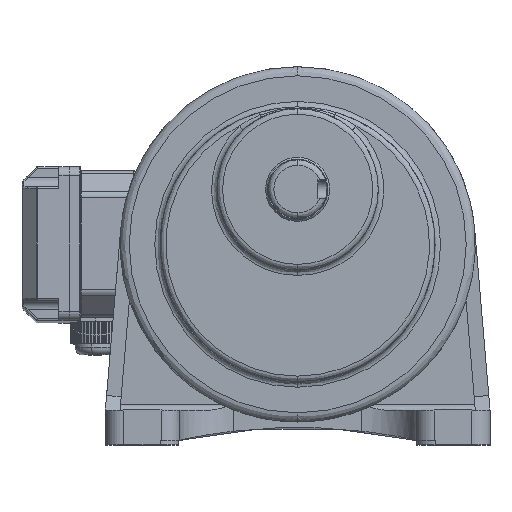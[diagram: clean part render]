
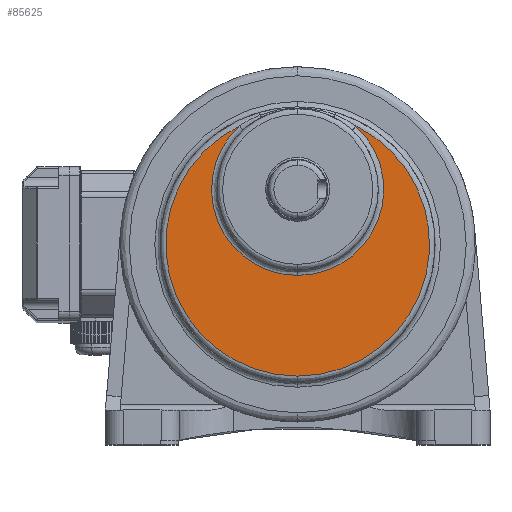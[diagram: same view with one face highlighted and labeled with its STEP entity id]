
A CAD part, top view. The second image highlights one B-rep face of the part: STEP entity #85625.
In plain terms, the highlighted planar face has unit normal (0, 0, 1) as drawn and (0, 1, 0) by its records, which use the part's own axes.
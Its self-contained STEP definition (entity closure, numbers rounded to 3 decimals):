
#17723 = EDGE_CURVE ( 'NONE', #154740, #95061, #183218, .T. ) ;
#20853 = CARTESIAN_POINT ( 'NONE',  ( 0., 0., 30. ) ) ;
#22615 = CARTESIAN_POINT ( 'NONE',  ( 31.828, 0., -34.583 ) ) ;
#22643 = ORIENTED_EDGE ( 'NONE', *, *, #17723, .T. ) ;
#31907 = CARTESIAN_POINT ( 'NONE',  ( 0., 0., 30. ) ) ;
#35008 = CARTESIAN_POINT ( 'NONE',  ( 78., 0., -48.063 ) ) ;
#51468 = EDGE_CURVE ( 'NONE', #95061, #82066, #196591, .T. ) ;
#53234 = DIRECTION ( 'NONE',  ( 0., 0., 1. ) ) ;
#60005 = CARTESIAN_POINT ( 'NONE',  ( 0., 0., 0. ) ) ;
#66972 = EDGE_CURVE ( 'NONE', #82066, #197688, #70011, .T. ) ;
#70011 = CIRCLE ( 'NONE', #97715, 72. ) ;
#75781 = AXIS2_PLACEMENT_3D ( 'NONE', #135601, #201696, #53234 ) ;
#82066 = VERTEX_POINT ( 'NONE', #110805 ) ;
#85625 = ADVANCED_FACE ( 'NONE', ( #117378 ), #183508, .T. ) ;
#86988 = DIRECTION ( 'NONE',  ( 0., 1., 0. ) ) ;
#95061 = VERTEX_POINT ( 'NONE', #98377 ) ;
#95323 = AXIS2_PLACEMENT_3D ( 'NONE', #60005, #126108, #192224 ) ;
#97715 = AXIS2_PLACEMENT_3D ( 'NONE', #31907, #98043, #164162 ) ;
#98043 = DIRECTION ( 'NONE',  ( 0., 1., 0. ) ) ;
#98377 = CARTESIAN_POINT ( 'NONE',  ( -31.828, 0., -34.583 ) ) ;
#101136 = DIRECTION ( 'NONE',  ( 0., 1., 0. ) ) ;
#103158 = AXIS2_PLACEMENT_3D ( 'NONE', #20853, #86988, #153085 ) ;
#110805 = CARTESIAN_POINT ( 'NONE',  ( 0., 0., 102. ) ) ;
#113722 = ORIENTED_EDGE ( 'NONE', *, *, #207869, .T. ) ;
#117378 = FACE_OUTER_BOUND ( 'NONE', #172727, .T. ) ;
#126108 = DIRECTION ( 'NONE',  ( 0., -1., 0. ) ) ;
#134960 = ORIENTED_EDGE ( 'NONE', *, *, #51468, .T. ) ;
#135601 = CARTESIAN_POINT ( 'NONE',  ( 0., 0., 0. ) ) ;
#153085 = DIRECTION ( 'NONE',  ( 0., 0., 1. ) ) ;
#154740 = VERTEX_POINT ( 'NONE', #155177 ) ;
#155177 = CARTESIAN_POINT ( 'NONE',  ( 0., 0., 47. ) ) ;
#162136 = ORIENTED_EDGE ( 'NONE', *, *, #66972, .T. ) ;
#164092 = AXIS2_PLACEMENT_3D ( 'NONE', #35008, #101136, #167232 ) ;
#164162 = DIRECTION ( 'NONE',  ( 0., 0., 1. ) ) ;
#167232 = DIRECTION ( 'NONE',  ( 0., 0., 1. ) ) ;
#169235 = CIRCLE ( 'NONE', #75781, 47. ) ;
#172727 = EDGE_LOOP ( 'NONE', ( #134960, #162136, #113722, #22643 ) ) ;
#183218 = CIRCLE ( 'NONE', #95323, 47. ) ;
#183508 = PLANE ( 'NONE',  #164092 ) ;
#192224 = DIRECTION ( 'NONE',  ( 0., 0., 1. ) ) ;
#196591 = CIRCLE ( 'NONE', #103158, 72. ) ;
#197688 = VERTEX_POINT ( 'NONE', #22615 ) ;
#201696 = DIRECTION ( 'NONE',  ( 0., -1., 0. ) ) ;
#207869 = EDGE_CURVE ( 'NONE', #197688, #154740, #169235, .T. ) ;
